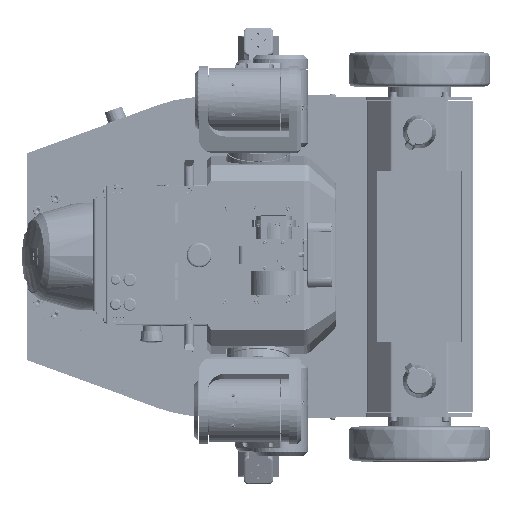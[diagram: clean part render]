
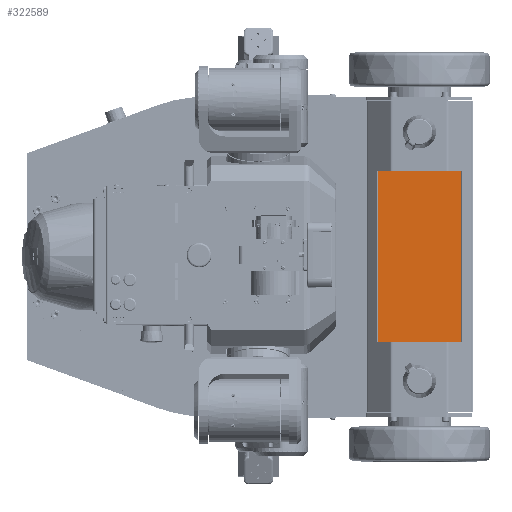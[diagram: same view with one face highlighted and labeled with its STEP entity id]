
A CAD part, top view. The second image highlights one B-rep face of the part: STEP entity #322589.
In plain terms, the highlighted planar face has unit normal (0, 0, 1).
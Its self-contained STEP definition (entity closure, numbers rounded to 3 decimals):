
#14655=PLANE('',#345332);
#26316=FACE_OUTER_BOUND('',#45025,.T.);
#45025=EDGE_LOOP('',(#215396,#215397,#215398,#215399));
#64313=LINE('',#503737,#88745);
#64314=LINE('',#503739,#88746);
#64329=LINE('',#503780,#88761);
#66289=LINE('',#517029,#90721);
#88745=VECTOR('',#377166,1.);
#88746=VECTOR('',#377169,1.);
#88761=VECTOR('',#377204,1.);
#90721=VECTOR('',#384230,1.);
#128217=VERTEX_POINT('',#503701);
#128222=VERTEX_POINT('',#503711);
#128225=VERTEX_POINT('',#503718);
#128226=VERTEX_POINT('',#503721);
#159756=EDGE_CURVE('',#128217,#128225,#64313,.T.);
#159757=EDGE_CURVE('',#128222,#128226,#64314,.T.);
#159778=EDGE_CURVE('',#128226,#128225,#64329,.T.);
#163423=EDGE_CURVE('',#128217,#128222,#66289,.T.);
#215396=ORIENTED_EDGE('',*,*,#159778,.F.);
#215397=ORIENTED_EDGE('',*,*,#159757,.F.);
#215398=ORIENTED_EDGE('',*,*,#163423,.F.);
#215399=ORIENTED_EDGE('',*,*,#159756,.T.);
#322589=ADVANCED_FACE('',(#26316),#14655,.F.);
#345332=AXIS2_PLACEMENT_3D('',#517570,#384368,#384369);
#377166=DIRECTION('',(0.,1.,0.));
#377169=DIRECTION('',(0.,1.,0.));
#377204=DIRECTION('',(1.,0.,0.));
#384230=DIRECTION('',(-1.,0.,0.));
#384368=DIRECTION('center_axis',(0.,0.,
-1.));
#384369=DIRECTION('ref_axis',(0.,-1.,0.));
#503701=CARTESIAN_POINT('',(534.149,-120.5,-89.349));
#503711=CARTESIAN_POINT('',(415.851,-120.5,-89.349));
#503718=CARTESIAN_POINT('',(534.148,120.5,-89.349));
#503721=CARTESIAN_POINT('',(415.852,120.5,-89.349));
#503737=CARTESIAN_POINT('',(534.149,-60.25,-89.349));
#503739=CARTESIAN_POINT('',(415.851,-60.25,-89.349));
#503780=CARTESIAN_POINT('',(474.999,120.5,-89.349));
#517029=CARTESIAN_POINT('',(474.999,-120.5,-89.349));
#517570=CARTESIAN_POINT('Origin',(474.999,0.,
-89.349));
